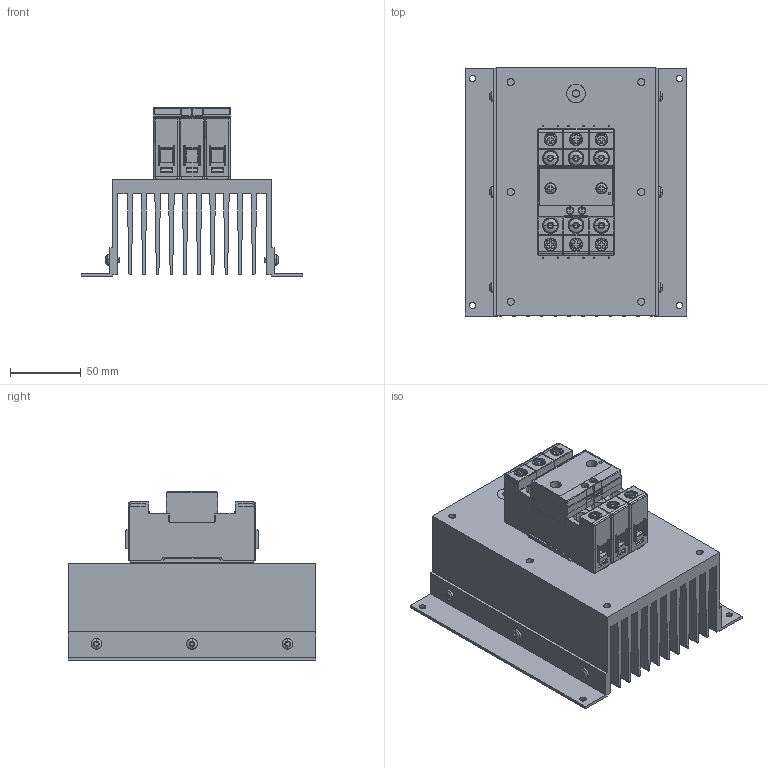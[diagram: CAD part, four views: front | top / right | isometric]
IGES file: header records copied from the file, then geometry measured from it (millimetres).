
Global section: file name: V:\RE DOCS 110324\Projects\0-Catalogue 3D-2D\RG\CGI1376-00.igs; native system: AutoCAD-18.2s (LMS Tech) (Microsoft Windows NT Version 5.2 (x64)); preprocessor: Autodesk IGES Translator Mechanical Desktop 2011 (Feb 18 2011) from Autodesk, Inc.; date: 20170829.151447; units: millimetre
Bounding box: 156.5 x 175 x 118.98 mm (x, y, z)
Surface area: 343535.6 mm2 (no closed solid volume)
Topology: 0 solids, 0 shells, 1816 faces, 10921 edges, 10897 vertices
Faces by surface type: bspline 1816
